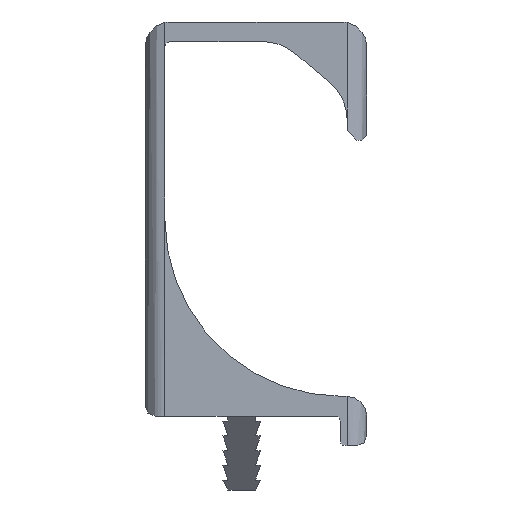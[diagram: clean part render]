
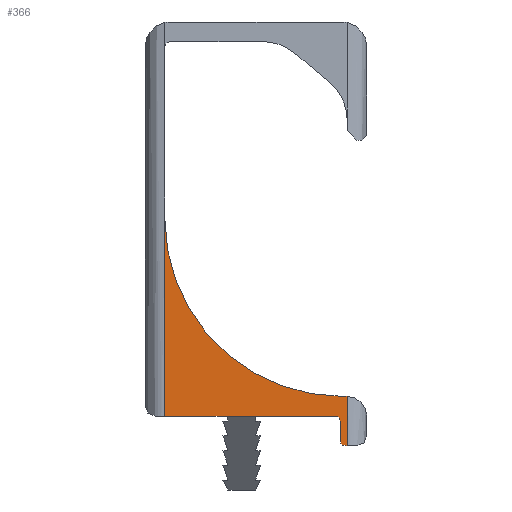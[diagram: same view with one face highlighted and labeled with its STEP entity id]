
A CAD part, left-side view. The second image highlights one B-rep face of the part: STEP entity #366.
In plain terms, the highlighted planar face has unit normal (-1, 0, 0).
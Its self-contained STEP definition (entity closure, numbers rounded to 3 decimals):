
#366 = ADVANCED_FACE( '', ( #1054 ), #1055, .F. );
#368 = VERTEX_POINT( '', #1057 );
#406 = VERTEX_POINT( '', #1103 );
#412 = EDGE_CURVE( '', #496, #914, #1109, .T. );
#420 = EDGE_CURVE( '', #708, #914, #1117, .T. );
#448 = EDGE_CURVE( '', #660, #368, #1146, .T. );
#458 = EDGE_CURVE( '', #594, #496, #1156, .T. );
#496 = VERTEX_POINT( '', #1195 );
#534 = EDGE_CURVE( '', #708, #406, #1239, .T. );
#594 = VERTEX_POINT( '', #1301 );
#602 = EDGE_CURVE( '', #944, #594, #1310, .T. );
#612 = EDGE_CURVE( '', #406, #660, #1320, .T. );
#660 = VERTEX_POINT( '', #1372 );
#708 = VERTEX_POINT( '', #1427 );
#746 = EDGE_CURVE( '', #368, #760, #1467, .T. );
#760 = VERTEX_POINT( '', #1482 );
#812 = EDGE_CURVE( '', #760, #944, #1539, .T. );
#914 = VERTEX_POINT( '', #1651 );
#944 = VERTEX_POINT( '', #1685 );
#1054 = FACE_OUTER_BOUND( '', #1800, .T. );
#1055 = PLANE( '', #1801 );
#1057 = CARTESIAN_POINT( '', ( 0., -10., -0.5 ) );
#1103 = CARTESIAN_POINT( '', ( 0., -10.5, -3. ) );
#1109 = LINE( '', #1881, #1882 );
#1117 = LINE( '', #1895, #1896 );
#1146 = LINE( '', #1940, #1941 );
#1156 = CIRCLE( '', #1954, 18. );
#1195 = CARTESIAN_POINT( '', ( 0., -10.2, 2. ) );
#1239 = LINE( '', #2070, #2071 );
#1301 = CARTESIAN_POINT( '', ( 0., 7.8, 20. ) );
#1310 = LINE( '', #2203, #2204 );
#1320 = CIRCLE( '', #2221, 0.5 );
#1372 = CARTESIAN_POINT( '', ( 0., -10., -2.5 ) );
#1427 = CARTESIAN_POINT( '', ( 0., -10.7, -3. ) );
#1467 = CIRCLE( '', #2431, 0.5 );
#1482 = CARTESIAN_POINT( '', ( 0., -9.5, 0. ) );
#1539 = LINE( '', #2552, #2553 );
#1651 = CARTESIAN_POINT( '', ( 0., -10.7, 2. ) );
#1685 = CARTESIAN_POINT( '', ( 0., 7.8, 0. ) );
#1800 = EDGE_LOOP( '', ( #2949, #2950, #2951, #2952, #2953, #2954, #2955, #2956, #2957 ) );
#1801 = AXIS2_PLACEMENT_3D( '', #2958, #2959, #2960 );
#1881 = CARTESIAN_POINT( '', ( 0., -10.2, 2. ) );
#1882 = VECTOR( '', #3034, 1. );
#1895 = CARTESIAN_POINT( '', ( 0., -10.7, 18.5 ) );
#1896 = VECTOR( '', #3037, 1. );
#1940 = CARTESIAN_POINT( '', ( 0., -10., -2.5 ) );
#1941 = VECTOR( '', #3053, 1. );
#1954 = AXIS2_PLACEMENT_3D( '', #3055, #3056, #3057 );
#2070 = CARTESIAN_POINT( '', ( 0., -11.7, -3. ) );
#2071 = VECTOR( '', #3135, 1. );
#2203 = CARTESIAN_POINT( '', ( 0., 7.8, 18.5 ) );
#2204 = VECTOR( '', #3208, 1. );
#2221 = AXIS2_PLACEMENT_3D( '', #3212, #3213, #3214 );
#2431 = AXIS2_PLACEMENT_3D( '', #3390, #3391, #3392 );
#2552 = CARTESIAN_POINT( '', ( 0., -9.5, 0. ) );
#2553 = VECTOR( '', #3462, 1. );
#2949 = ORIENTED_EDGE( '', *, *, #420, .T. );
#2950 = ORIENTED_EDGE( '', *, *, #412, .F. );
#2951 = ORIENTED_EDGE( '', *, *, #458, .F. );
#2952 = ORIENTED_EDGE( '', *, *, #602, .F. );
#2953 = ORIENTED_EDGE( '', *, *, #812, .F. );
#2954 = ORIENTED_EDGE( '', *, *, #746, .F. );
#2955 = ORIENTED_EDGE( '', *, *, #448, .F. );
#2956 = ORIENTED_EDGE( '', *, *, #612, .F. );
#2957 = ORIENTED_EDGE( '', *, *, #534, .F. );
#2958 = CARTESIAN_POINT( '', ( 0., 0., 0. ) );
#2959 = DIRECTION( '', ( 1., 0., 0. ) );
#2960 = DIRECTION( '', ( 0., 0., -1. ) );
#3034 = DIRECTION( '', ( 0., -1., 0. ) );
#3037 = DIRECTION( '', ( 0., 0., 1. ) );
#3053 = DIRECTION( '', ( 0., 0., 1. ) );
#3055 = CARTESIAN_POINT( '', ( 0., -10.2, 20. ) );
#3056 = DIRECTION( '', ( -1., 0., 0. ) );
#3057 = DIRECTION( '', ( 0., 1., 0. ) );
#3135 = DIRECTION( '', ( 0., 1., 0. ) );
#3208 = DIRECTION( '', ( 0., 0., 1. ) );
#3212 = CARTESIAN_POINT( '', ( 0., -10.5, -2.5 ) );
#3213 = DIRECTION( '', ( 1., 0., 0. ) );
#3214 = DIRECTION( '', ( 0., 0., -1. ) );
#3390 = CARTESIAN_POINT( '', ( 0., -9.5, -0.5 ) );
#3391 = DIRECTION( '', ( -1., 0., 0. ) );
#3392 = DIRECTION( '', ( 0., -1., 0. ) );
#3462 = DIRECTION( '', ( 0., 1., 0. ) );
